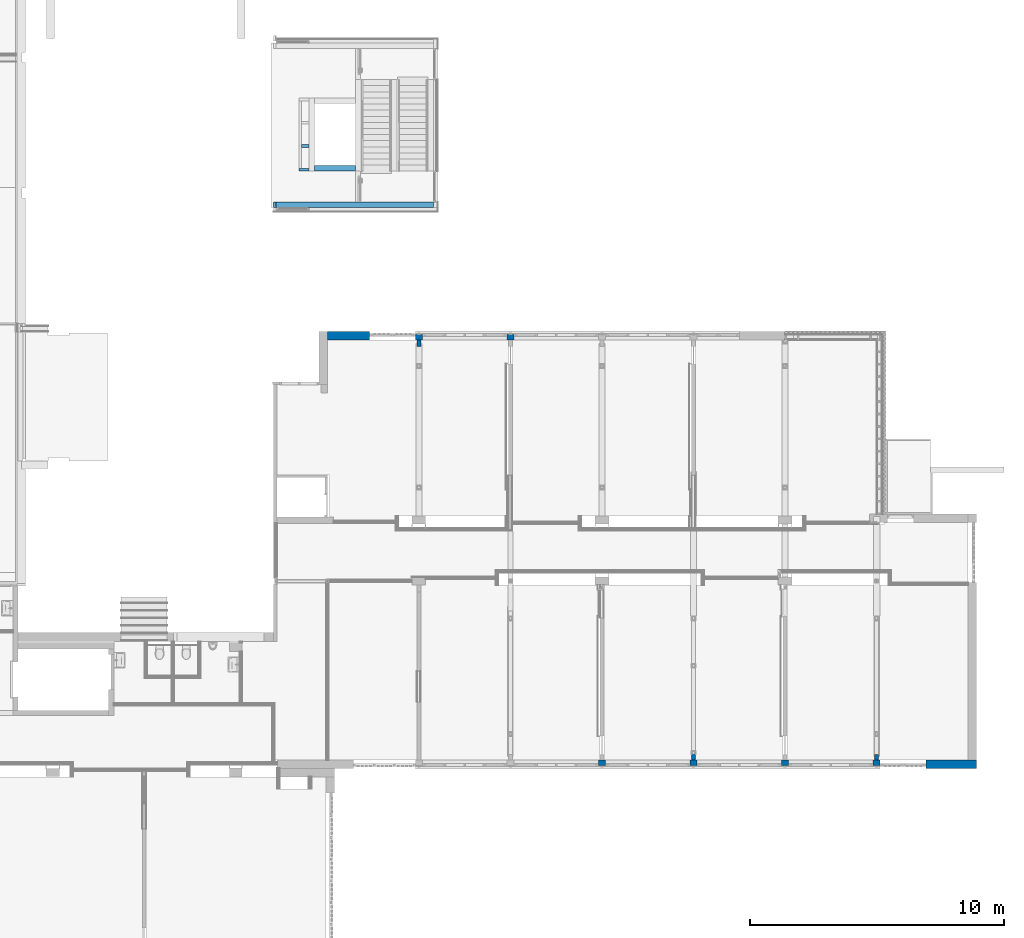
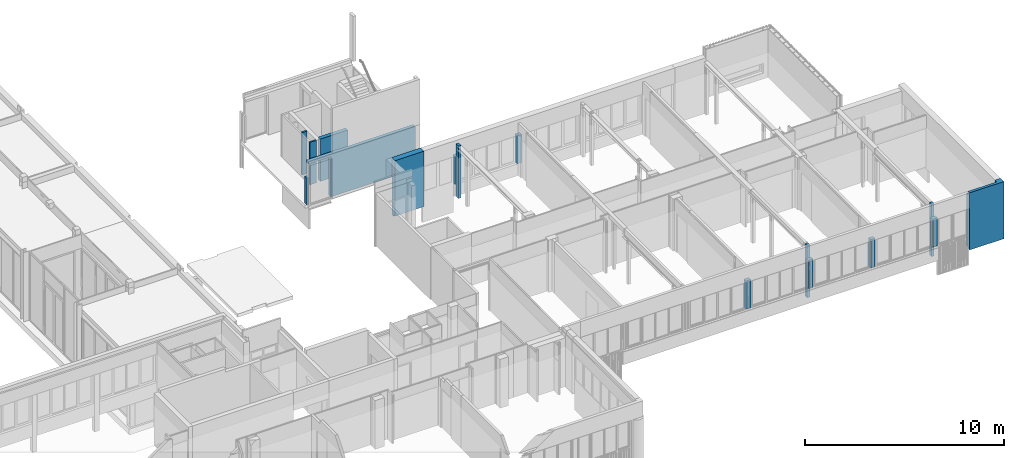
# One storey, part 50 of 99: 15 walls.
"""IFC2X3 building model written with IfcOpenShell, lengths in millimetres."""

from ifc_helpers import new_model, entity, si_unit, converted_unit, derived_unit, money_unit, direction, frame, origin_with_axes, place, context, subcontext, project, spatial, faceted_brep, material, type_object, element, save


model = new_model("IFC2X3")

# Units and contexts
model_context = context("Model", 3, precision=0.01, world=origin_with_axes(), true_north=direction((0.0, 1.0)))
body_context = subcontext(model_context, "Body", "Model", "MODEL_VIEW")
ifc_project = project(units=[si_unit("LENGTHUNIT", "METRE", prefix="MILLI"), si_unit("AREAUNIT", "SQUARE_METRE"), si_unit("VOLUMEUNIT", "CUBIC_METRE"), converted_unit("PLANEANGLEUNIT", "DEGREE", entity("IfcPlaneAngleMeasure", 0.0174532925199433), si_unit("PLANEANGLEUNIT", "RADIAN"), dimensions=[0, 0, 0, 0, 0, 0, 0]), money_unit("EUR"), converted_unit("TIMEUNIT", "Year", entity("IfcTimeMeasure", 31557600.0), si_unit("TIMEUNIT", "SECOND"), dimensions=[0, 0, 1, 0, 0, 0, 0]), si_unit("MASSUNIT", "GRAM", prefix="KILO"), si_unit("THERMODYNAMICTEMPERATUREUNIT", "DEGREE_CELSIUS"), si_unit("LUMINOUSINTENSITYUNIT", "LUMEN"), si_unit("ENERGYUNIT", "JOULE", prefix="MEGA"), derived_unit("THERMALCONDUCTANCEUNIT", [(si_unit("POWERUNIT", "WATT"), 1), (si_unit("LENGTHUNIT", "METRE"), -1), (si_unit("THERMODYNAMICTEMPERATUREUNIT", "KELVIN"), -1)]), derived_unit("SPECIFICHEATCAPACITYUNIT", [(si_unit("ENERGYUNIT", "JOULE"), 1), (si_unit("MASSUNIT", "GRAM", prefix="KILO"), -1), (si_unit("THERMODYNAMICTEMPERATUREUNIT", "KELVIN"), -1)]), derived_unit("MASSDENSITYUNIT", [(si_unit("MASSUNIT", "GRAM", prefix="KILO"), 1), (si_unit("VOLUMEUNIT", "CUBIC_METRE"), -1)])], contexts=[model_context])

# Site, building, storey
site_placement = place(None, origin_with_axes())
site = spatial("IfcSite", under=ifc_project, at=site_placement, Name="Site", CompositionType="ELEMENT")
building_placement = place(site_placement, origin_with_axes())
building = spatial("IfcBuilding", under=site, at=building_placement, Name="Naam gebouw", CompositionType="ELEMENT")
storey_placement = place(building_placement, frame((0.0, 0.0, 7650.0), z_axis=(0.0, 0.0, 1.0), x_axis=(1.0, 0.0, 0.0)))
storey = spatial("IfcBuildingStorey", under=building, at=storey_placement, Name="2e verdieping N", CompositionType="ELEMENT", Elevation=7650.0)

# Walls
ifc_material_1 = material(Name="ALG - CONSTRUCTIEF")
wall_type_1 = type_object("IfcWallType", Name="ALG - CONSTRUCTIEF 150", PredefinedType="NOTDEFINED")
for number, where, z_axis, x_axis, name in (
    (1, (46800.00000000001, 10825.91242510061, -99.99999999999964), (0.0, 0.0, 1.0), (0.0, 1.0, 0.0), "_Wand-x"),
    (2, (54000.0, 10825.91242510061, -99.99999999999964), (0.0, 0.0, 1.0), (0.0, 1.0, 0.0), "_Wand-x"),
):
    element("IfcWall", number, at=place(storey_placement, frame(where, z_axis=z_axis, x_axis=x_axis)), inside=storey, type_object=wall_type_1, material=ifc_material_1, Name=name, context=body_context, shape_type="Brep", body=[
        faceted_brep([(374.9999999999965, 75.00000000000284, 99.99999999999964), (374.9999999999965, 75.00000000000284, 3299.999999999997), (374.9999999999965, -75.00000000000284, 3299.999999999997), (374.9999999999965, -75.00000000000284, 99.99999999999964), (164.9999999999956, 75.00000000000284, 99.99999999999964), (164.9999999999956, 75.00000000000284, 3299.999999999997), (164.9999999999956, -75.00000000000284, 3299.999999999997), (164.9999999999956, -75.00000000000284, 99.99999999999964)], [[[0, 1, 2, 3]], [[4, 5, 1, 0]], [[5, 6, 2, 1]], [[3, 2, 6, 7]], [[4, 0, 3, 7]], [[7, 6, 5, 4]]]),
    ])
wall_1_placement = place(storey_placement, frame((35999.99999999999, 27250.91242510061, -99.99999999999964), z_axis=(0.0, 0.0, 1.0), x_axis=(0.0, 1.0, 0.0)))
element("IfcWall", 3, at=wall_1_placement, inside=storey, type_object=wall_type_1, material=ifc_material_1, Name="_Wand-x", context=body_context, shape_type="Brep", body=[
    faceted_brep([(255.0000000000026, -75.00000000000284, 99.99999999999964), (255.0000000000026, 75.00000000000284, 99.99999999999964), (255.0000000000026, 75.00000000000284, 3299.999999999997), (255.0000000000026, -75.00000000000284, 3299.999999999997), (0.0, -75.00000000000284, 99.99999999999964), (0.0, 75.00000000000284, 99.99999999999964), (0.0, 75.00000000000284, 3299.999999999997), (0.0, -75.00000000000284, 3299.999999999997)], [[[0, 1, 2, 3]], [[4, 5, 1, 0]], [[1, 5, 6, 2]], [[2, 6, 7, 3]], [[4, 0, 3, 7]], [[5, 4, 7, 6]]]),
])
wall_type_2 = type_object("IfcWallType", Name="ALG - CONSTRUCTIEF 330", PredefinedType="NOTDEFINED")
wall_2_placement = place(storey_placement, frame((57599.99999999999, 10990.91242510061, -99.99999999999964), z_axis=(0.0, 0.0, 1.0), x_axis=(-1.0, 0.0, 0.0)))
element("IfcWall", 4, at=wall_2_placement, inside=storey, type_object=wall_type_2, material=ifc_material_1, Name="_Wand-x", context=body_context, shape_type="Brep", body=[
    faceted_brep([(1661.843280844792, 0.0, 99.99999999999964), (1661.843280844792, 0.0, 3299.999999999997), (0.0, 0.0, 3299.999999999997), (0.0, 0.0, 3500.0), (-329.9999999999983, 0.0, 3500.0), (-329.9999999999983, 0.0, 0.0), (0.0, 0.0, 0.0), (0.0, 0.0, 99.99999999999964), (1661.843280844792, 168.1794439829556, 3500.0), (1661.843280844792, 168.1794439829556, 3299.999999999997), (1661.843280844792, 146.0000000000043, 99.99999999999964), (1661.843280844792, 146.0000000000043, 0.0), (1661.843280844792, 330.0000000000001, 0.0), (1661.843280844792, 330.0000000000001, 3500.0), (0.0, 168.1794439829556, 3299.999999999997), (0.0, 168.1794439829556, 3500.0), (-329.9999999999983, 330.0000000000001, 3500.0), (-329.9999999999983, 330.0000000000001, 0.0), (0.0, 146.0000000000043, 0.0), (0.0, 146.0000000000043, 99.99999999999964)], [[[0, 1, 2, 3, 4, 5, 6, 7]], [[8, 9, 1, 0, 10, 11, 12, 13]], [[14, 2, 1, 9]], [[14, 15, 3, 2]], [[3, 15, 8, 13, 16, 4]], [[4, 16, 17, 5]], [[11, 18, 6, 5, 17, 12]], [[19, 7, 6, 18]], [[10, 0, 7, 19]], [[9, 8, 15, 14]], [[19, 18, 11, 10]], [[17, 16, 13, 12]]]),
])
wall_3_placement = place(storey_placement, frame((34062.5, 27505.91242510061, -99.99999999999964), z_axis=(0.0, 0.0, 1.0), x_axis=(-1.0, 0.0, 0.0)))
element("IfcWall", 5, at=wall_3_placement, inside=storey, type_object=wall_type_2, material=ifc_material_1, Name="_Wand-x", context=body_context, shape_type="Brep", body=[
    faceted_brep([(0.0, 0.0, 99.99999999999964), (0.0, -146.0447346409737, 99.99999999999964), (0.0, -146.0447346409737, 0.0), (0.0, -329.9999999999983, 0.0), (0.0, -329.9999999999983, 3500.0), (0.0, 0.0, 3500.0), (1662.500000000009, -146.0860520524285, 99.99999999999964), (1662.500000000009, 0.0, 99.99999999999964), (1662.500000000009, -146.0860520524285, 0.0), (1662.500000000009, -330.0000000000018, 0.0), (1662.500000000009, -329.9999999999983, 3500.0), (1662.500000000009, 0.0, 3500.0)], [[[0, 1, 2, 3, 4, 5]], [[6, 1, 0, 7]], [[8, 2, 1, 6]], [[3, 2, 8, 9]], [[4, 3, 9, 10]], [[5, 4, 10, 11]], [[11, 7, 0, 5]], [[8, 6, 7, 11, 10, 9]]]),
])
ifc_material_2 = material(Name="ALG - GEVEL")
wall_type_3 = type_object("IfcWallType", Name="ALG - GEVEL 260", PredefinedType="NOTDEFINED")
wall_4_placement = place(storey_placement, frame((46937.50000000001, 10730.9124251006, 720.0000000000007), z_axis=(0.0, 0.0, 1.0), x_axis=(-1.0, 0.0, 0.0)))
element("IfcWall", 6, at=wall_4_placement, inside=storey, type_object=wall_type_3, material=ifc_material_2, Name="_Wand-x", context=body_context, shape_type="Brep", body=[
    faceted_brep([(275.0000000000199, -44.00000000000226, 1720.000000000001), (0.0, -44.00000000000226, 1720.000000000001), (0.0, -259.9999999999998, 1719.999999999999), (275.0000000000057, -259.9999999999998, 1719.999999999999), (275.0000000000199, -44.00000000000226, 0.0), (0.0, -44.00000000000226, 0.0), (0.0, -259.9999999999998, 0.0), (275.0000000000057, -259.9999999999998, 0.0)], [[[0, 1, 2, 3]], [[0, 4, 5, 1]], [[2, 1, 5, 6]], [[3, 2, 6, 7]], [[7, 4, 0, 3]], [[5, 4, 7, 6]]]),
])
wall_5_placement = place(storey_placement, frame((39737.50000000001, 27765.91242510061, 720.0000000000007), z_axis=(0.0, 0.0, 1.0), x_axis=(-1.0, 0.0, 0.0)))
element("IfcWall", 7, at=wall_5_placement, inside=storey, type_object=wall_type_3, material=ifc_material_2, Name="_Wand-x", context=body_context, shape_type="Brep", body=[
    faceted_brep([(0.0, 43.99999999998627, 1720.000000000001), (0.0, 43.99999999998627, 0.0), (275.0000000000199, 43.99999999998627, 0.0), (275.0000000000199, 43.99999999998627, 1720.000000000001), (0.0, 260.0000000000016, 0.0), (0.0, 260.0000000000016, 1719.999999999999), (275.0000000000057, 260.0000000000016, 0.0), (275.0000000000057, 260.0000000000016, 1719.999999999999)], [[[0, 1, 2, 3]], [[4, 1, 0, 5]], [[2, 1, 4, 6]], [[7, 3, 2, 6]], [[0, 3, 7, 5]], [[6, 4, 5, 7]]]),
])
wall_6_placement = place(storey_placement, frame((36137.49999999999, 27765.91242510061, 720.0000000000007), z_axis=(0.0, 0.0, 1.0), x_axis=(-1.0, 0.0, 0.0)))
element("IfcWall", 8, at=wall_6_placement, inside=storey, type_object=wall_type_3, material=ifc_material_2, Name="_Wand-x", context=body_context, shape_type="Brep", body=[
    faceted_brep([(0.0, 43.99999999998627, 1720.000000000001), (0.0, 43.99999999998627, 0.0), (275.0000000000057, 43.99999999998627, 0.0), (275.0000000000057, 43.99999999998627, 1720.000000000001), (0.0, 260.0000000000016, 0.0), (0.0, 260.0000000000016, 1719.999999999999), (275.0000000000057, 260.0000000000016, 0.0), (275.0000000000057, 260.0000000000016, 1719.999999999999)], [[[0, 1, 2, 3]], [[4, 1, 0, 5]], [[2, 1, 4, 6]], [[7, 3, 2, 6]], [[0, 3, 7, 5]], [[6, 4, 5, 7]]]),
])
wall_7_placement = place(storey_placement, frame((54137.49999999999, 10730.9124251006, 720.0000000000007), z_axis=(0.0, 0.0, 1.0), x_axis=(-1.0, 0.0, 0.0)))
element("IfcWall", 9, at=wall_7_placement, inside=storey, type_object=wall_type_3, material=ifc_material_2, Name="_Wand-x", context=body_context, shape_type="Brep", body=[
    faceted_brep([(275.0000000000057, -44.00000000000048, 1720.000000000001), (0.0, -44.00000000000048, 1720.000000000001), (0.0, -259.9999999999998, 1719.999999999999), (275.0000000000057, -259.9999999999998, 1719.999999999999), (275.0000000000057, -44.00000000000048, 0.0), (0.0, -44.00000000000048, 0.0), (0.0, -259.9999999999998, 0.0), (275.0000000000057, -259.9999999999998, 0.0)], [[[0, 1, 2, 3]], [[0, 4, 5, 1]], [[2, 1, 5, 6]], [[3, 2, 6, 7]], [[7, 4, 0, 3]], [[5, 4, 7, 6]]]),
])
wall_8_placement = place(storey_placement, frame((50537.49999999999, 10730.9124251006, 720.0000000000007), z_axis=(0.0, 0.0, 1.0), x_axis=(-1.0, 0.0, 0.0)))
element("IfcWall", 10, at=wall_8_placement, inside=storey, type_object=wall_type_3, material=ifc_material_2, Name="_Wand-x", context=body_context, shape_type="Brep", body=[
    faceted_brep([(275.0000000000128, -44.00000000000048, 1720.000000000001), (0.0, -44.00000000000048, 1720.000000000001), (0.0, -259.9999999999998, 1719.999999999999), (275.0000000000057, -259.9999999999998, 1719.999999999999), (275.0000000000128, -44.00000000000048, 0.0), (0.0, -44.00000000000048, 0.0), (0.0, -259.9999999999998, 0.0), (275.0000000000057, -259.9999999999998, 0.0)], [[[0, 1, 2, 3]], [[0, 4, 5, 1]], [[2, 1, 5, 6]], [[3, 2, 6, 7]], [[7, 4, 0, 3]], [[5, 4, 7, 6]]]),
])
wall_9_placement = place(storey_placement, frame((43337.50000000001, 10730.9124251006, 720.0000000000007), z_axis=(0.0, 0.0, 1.0), x_axis=(-1.0, 0.0, 0.0)))
element("IfcWall", 11, at=wall_9_placement, inside=storey, type_object=wall_type_3, material=ifc_material_2, Name="_Wand-x", context=body_context, shape_type="Brep", body=[
    faceted_brep([(275.0000000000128, -44.00000000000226, 1720.000000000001), (0.0, -44.00000000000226, 1720.000000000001), (0.0, -259.9999999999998, 1719.999999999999), (275.0000000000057, -259.9999999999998, 1719.999999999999), (275.0000000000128, -44.00000000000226, 0.0), (0.0, -44.00000000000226, 0.0), (0.0, -259.9999999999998, 0.0), (275.0000000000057, -259.9999999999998, 0.0)], [[[0, 1, 2, 3]], [[0, 4, 5, 1]], [[2, 1, 5, 6]], [[3, 2, 6, 7]], [[7, 4, 0, 3]], [[5, 4, 7, 6]]]),
])
ifc_material_3 = material(Name="kalkzandsteen")
wall_type_4 = type_object("IfcWallType", Name="Basic Wall:NLRS_28_kalkzandsteen 100mm", PredefinedType="STANDARD")
wall_10_placement = place(storey_placement, frame((31685.00000005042, 34195.9124263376, -1729.99999999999), z_axis=(0.0, 0.0, 1.0), x_axis=(-1.0, -1.69701635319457e-10, 0.0)))
element("IfcWall", 12, at=wall_10_placement, inside=storey, type_object=wall_type_4, material=ifc_material_3, Name="Basic Wall:NLRS_28_kalkzandsteen 100mm", context=body_context, shape_type="Brep", body=[
    faceted_brep([(393.0000000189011, 49.99999997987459, 0.0), (393.000000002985, -50.00000005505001, 0.0), (-8.483880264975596e-09, -49.99999998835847, 0.0), (8.483880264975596e-09, 50.00000004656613, 0.0), (393.0000000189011, 49.99999997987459, 2600.000000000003), (393.000000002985, -50.00000005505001, 2600.000000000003), (-8.483880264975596e-09, -49.99999998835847, 2600.000000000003), (8.483880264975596e-09, 50.00000004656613, 2600.000000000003)], [[[0, 1, 2, 3]], [[1, 0, 4, 5]], [[1, 5, 6, 2]], [[7, 3, 2, 6]], [[4, 0, 3, 7]], [[5, 4, 7, 6]]]),
])
wall_11_placement = place(storey_placement, frame((31792.00000003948, 35135.91242628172, -1729.99999999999), z_axis=(0.0, 0.0, 1.0), x_axis=(-1.0, 1.293503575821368e-10, 0.0)))
element("IfcWall", 13, at=wall_11_placement, inside=storey, type_object=wall_type_4, material=ifc_material_3, Name="Basic Wall:NLRS_28_kalkzandsteen 100mm", context=body_context, shape_type="Brep", body=[
    faceted_brep([(399.9999999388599, 50.00000009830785, 0.0), (399.999999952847, -49.99999999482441, 0.0), (106.9999999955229, -50.00000003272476, 0.0), (106.9999999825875, 50.0000000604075, 0.0), (399.9999999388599, 50.00000009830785, 2600.000000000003), (399.999999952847, -49.99999999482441, 2600.000000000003), (106.9999999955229, -50.00000003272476, 2600.000000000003), (106.9999999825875, 50.0000000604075, 2600.000000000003)], [[[0, 1, 2, 3]], [[1, 0, 4, 5]], [[1, 5, 6, 2]], [[7, 3, 2, 6]], [[4, 0, 3, 7]], [[5, 4, 7, 6]]]),
])
wall_type_5 = type_object("IfcWallType", Name="Basic Wall:NLRS_28_kalkzandsteen 214mm", PredefinedType="STANDARD")
wall_12_placement = place(storey_placement, frame((33606.00000005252, 34252.91242630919, -1729.99999999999), z_axis=(0.0, 0.0, 1.0), x_axis=(-1.0, 0.0, 0.0)))
element("IfcWall", 14, at=wall_12_placement, inside=storey, type_object=wall_type_5, material=ifc_material_3, Name="Basic Wall:NLRS_28_kalkzandsteen 214mm", context=body_context, shape_type="Brep", body=[
    faceted_brep([(1706.999999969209, 106.9999999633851, 0.0), (1706.999999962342, -107.0000000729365, 0.0), (107.0000000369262, -107.0000000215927, 0.0), (107.0000000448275, 107.0000000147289, 0.0), (1706.999999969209, 106.9999999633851, 2600.000000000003), (1706.999999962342, -107.0000000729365, 2600.000000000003), (107.0000000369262, -107.0000000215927, 2600.000000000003), (107.0000000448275, 107.0000000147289, 2600.000000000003)], [[[0, 1, 2, 3]], [[1, 0, 4, 5]], [[1, 5, 6, 2]], [[7, 3, 2, 6]], [[4, 0, 3, 7]], [[5, 4, 7, 6]]]),
])
wall_13_placement = place(storey_placement, frame((30291.00000005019, 32818.9124262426, -1729.99999999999), z_axis=(0.0, 0.0, 1.0), x_axis=(1.0, 0.0, 0.0)))
element("IfcWall", 15, at=wall_13_placement, inside=storey, type_object=wall_type_5, material=ifc_material_3, Name="Basic Wall:NLRS_28_kalkzandsteen 214mm", context=body_context, shape_type="Brep", body=[
    faceted_brep([(100.0, -107.0, 1630.0), (0.0, -107.0, 1630.0), (0.0, -107.0, 0.0), (100.0, -107.0, 0.0), (100.0, 107.0, 1630.0), (0.0, 107.0, 1630.0), (0.0, 107.0, 0.0), (100.0, 107.0, 0.0)], [[[0, 1, 2, 3]], [[4, 5, 1, 0]], [[6, 2, 1, 5]], [[2, 6, 7, 3]], [[0, 3, 7, 4]], [[5, 4, 7, 6]]]),
    faceted_brep([(6290.0, 107.0, 2600.0), (6290.0, 107.0, 0.0), (3422.0, 107.0, 0.0), (3208.0, 107.0, 0.0), (1394.01028261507, 107.0, 0.0), (1394.01028261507, 107.0, 2470.0), (100.0, 107.0, 2470.0), (100.0, 107.0, 2600.0), (6290.0, -107.0, 2600.0), (6290.0, -107.0, 0.0), (1394.01028261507, -107.0, 0.0), (1394.01028261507, -107.0, 2470.0), (100.0, -107.0, 2470.0), (100.0, -107.0, 2600.0)], [[[0, 1, 2, 3, 4, 5, 6, 7]], [[8, 9, 1, 0]], [[1, 9, 10, 4, 3, 2]], [[11, 5, 4, 10]], [[5, 11, 12, 6]], [[13, 7, 6, 12]], [[13, 8, 0, 7]], [[9, 8, 13, 12, 11, 10]]]),
])

save(model, "model.ifc")
